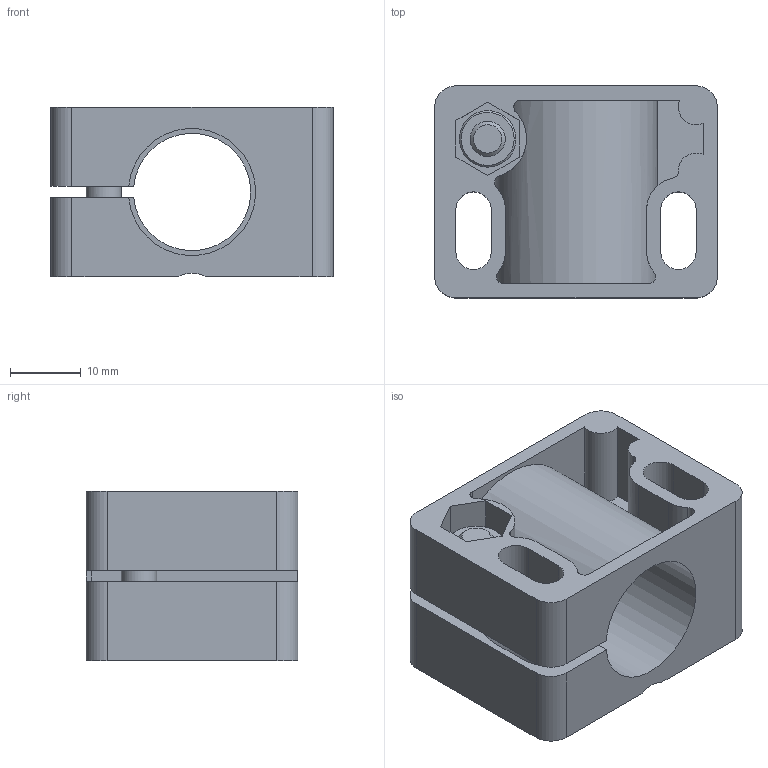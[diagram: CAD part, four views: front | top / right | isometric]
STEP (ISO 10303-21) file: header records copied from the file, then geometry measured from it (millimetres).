
FILE_DESCRIPTION((''),'2;1');
FILE_NAME('C:\TurckZip\BST-18.stp','2007-05-24T12:56:02',('IKOROL'),(''),'Autodesk Inventor 11','Autodesk Inventor 11','');
FILE_SCHEMA(('AUTOMOTIVE_DESIGN { 1 0 10303 214 1 1 1 1 }'));
Length unit declared in the file: millimetre
Products named in the file (1): Part6
Bounding box: 40 x 30 x 24 mm (x, y, z)
Volume: 13631.4 mm3; surface area: 10371.7 mm2
Topology: 1 solids, 1 shells, 104 faces, 288 edges, 188 vertices
Faces by surface type: plane 58, cylinder 38, bspline 4, cone 4
Full cylindrical faces by diameter (mm): 5 x2, 7 x3, 8 x1
Entity records: 3475 total; most frequent: CARTESIAN_POINT 856, DIRECTION 537, ORIENTED_EDGE 534, EDGE_CURVE 267, AXIS2_PLACEMENT_3D 187, VERTEX_POINT 179, VECTOR 163, LINE 163
